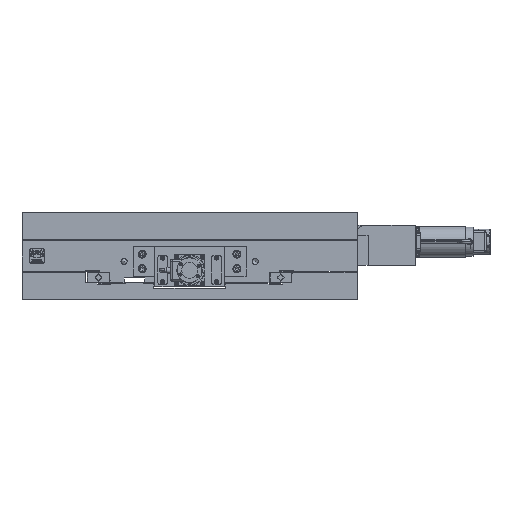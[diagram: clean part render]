
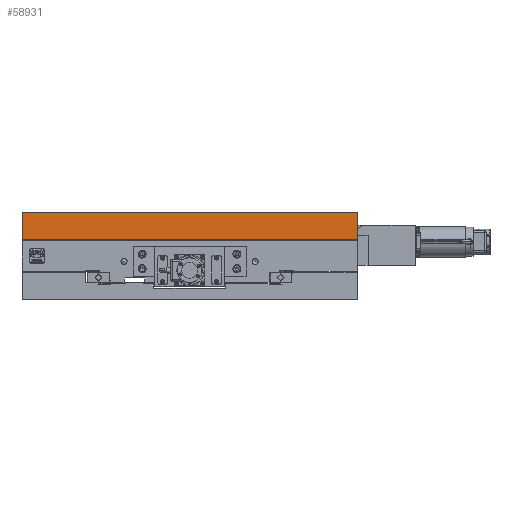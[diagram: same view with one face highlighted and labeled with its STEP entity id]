
A CAD part, front view. The second image highlights one B-rep face of the part: STEP entity #58931.
In plain terms, the highlighted planar face has unit normal (0, -1, 0) as drawn and (-1, 0, 0) by its records, which use the part's own axes.
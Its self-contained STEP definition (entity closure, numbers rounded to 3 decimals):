
#8038=FACE_OUTER_BOUND('',#11709,.T.);
#11709=EDGE_LOOP('',(#48103,#48104,#48105,#48106));
#16269=LINE('',#99713,#20950);
#16393=LINE('',#100163,#21074);
#16430=LINE('',#100238,#21111);
#16432=LINE('',#100241,#21113);
#20950=VECTOR('',#75955,10.);
#21074=VECTOR('',#76405,10.);
#21111=VECTOR('',#76482,10.);
#21113=VECTOR('',#76486,10.);
#26034=VERTEX_POINT('',#99710);
#26035=VERTEX_POINT('',#99712);
#26198=VERTEX_POINT('',#100161);
#26216=VERTEX_POINT('',#100237);
#33482=EDGE_CURVE('',#26035,#26034,#16269,.T.);
#33698=EDGE_CURVE('',#26198,#26034,#16393,.T.);
#33735=EDGE_CURVE('',#26216,#26035,#16430,.T.);
#33737=EDGE_CURVE('',#26198,#26216,#16432,.T.);
#48103=ORIENTED_EDGE('',*,*,#33482,.T.);
#48104=ORIENTED_EDGE('',*,*,#33698,.F.);
#48105=ORIENTED_EDGE('',*,*,#33737,.T.);
#48106=ORIENTED_EDGE('',*,*,#33735,.T.);
#53005=PLANE('',#63638);
#58931=ADVANCED_FACE('',(#8038),#53005,.T.);
#63638=AXIS2_PLACEMENT_3D('',#100240,#76484,#76485);
#75955=DIRECTION('',(0.,0.,1.));
#76405=DIRECTION('',(0.,-1.,0.));
#76482=DIRECTION('',(0.,-1.,0.));
#76484=DIRECTION('center_axis',(-1.,0.,0.));
#76485=DIRECTION('ref_axis',(0.,1.,0.));
#76486=DIRECTION('',(0.,0.,-1.));
#99710=CARTESIAN_POINT('',(-230.,-230.,38.));
#99712=CARTESIAN_POINT('',(-230.,-230.,0.5));
#99713=CARTESIAN_POINT('',(-230.,-230.,38.));
#100161=CARTESIAN_POINT('',(-230.,230.,38.));
#100163=CARTESIAN_POINT('',(-230.,230.,38.));
#100237=CARTESIAN_POINT('',(-230.,230.,0.5));
#100238=CARTESIAN_POINT('',(-230.,230.,0.5));
#100240=CARTESIAN_POINT('Origin',(-230.,230.,0.5));
#100241=CARTESIAN_POINT('',(-230.,230.,38.));
